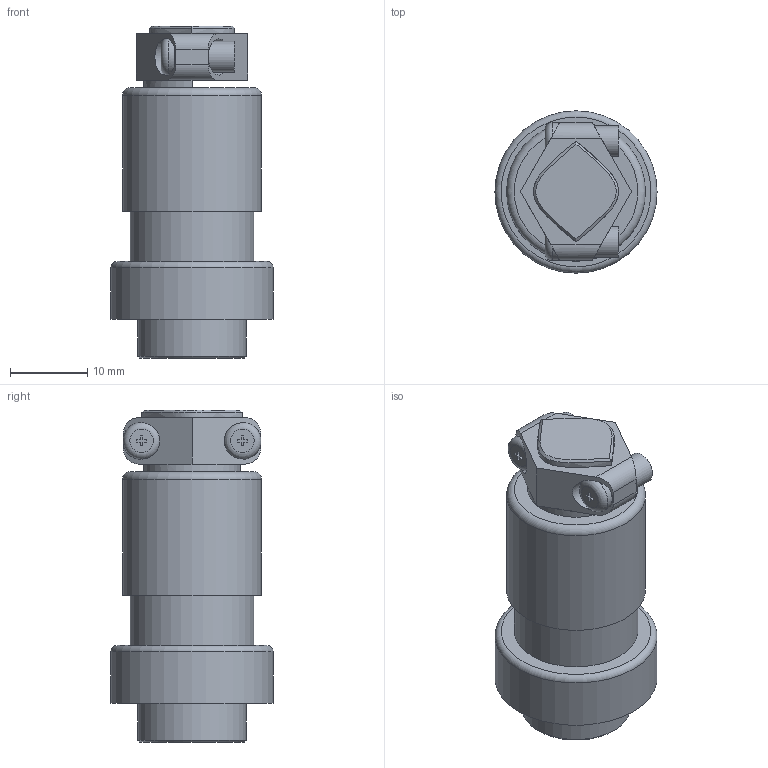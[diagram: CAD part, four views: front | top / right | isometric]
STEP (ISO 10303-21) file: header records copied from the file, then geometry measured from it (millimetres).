
FILE_DESCRIPTION (( 'STEP AP203' ), '1' );
FILE_NAME ('YISCK16-4(0).STEP', '2025-05-28T07:00:36', ( '' ), ( '' ), 'SwSTEP 2.0', 'SolidWorks 2021', '' );
FILE_SCHEMA (( 'CONFIG_CONTROL_DESIGN' ));
Length unit declared in the file: millimetre
Products named in the file (1): YISCK16-4(0)
Bounding box: 21 x 21 x 43 mm (x, y, z)
Volume: 8295.1 mm3; surface area: 4706.2 mm2
Topology: 1 solids, 1 shells, 83 faces, 215 edges, 141 vertices
Faces by surface type: plane 49, cylinder 22, torus 4, bspline 4, sphere 3, cone 1
Full cylindrical faces by diameter (mm): 2 x2, 2.5 x1, 4 x2, 4.7 x2, 13.5 x1, 14 x1, 16 x2, 18 x1, 21 x1
Entity records: 2539 total; most frequent: CARTESIAN_POINT 678, ORIENTED_EDGE 352, DIRECTION 342, EDGE_CURVE 176, VERTEX_POINT 126, EDGE_LOOP 118, AXIS2_PLACEMENT_3D 118, LINE 106
